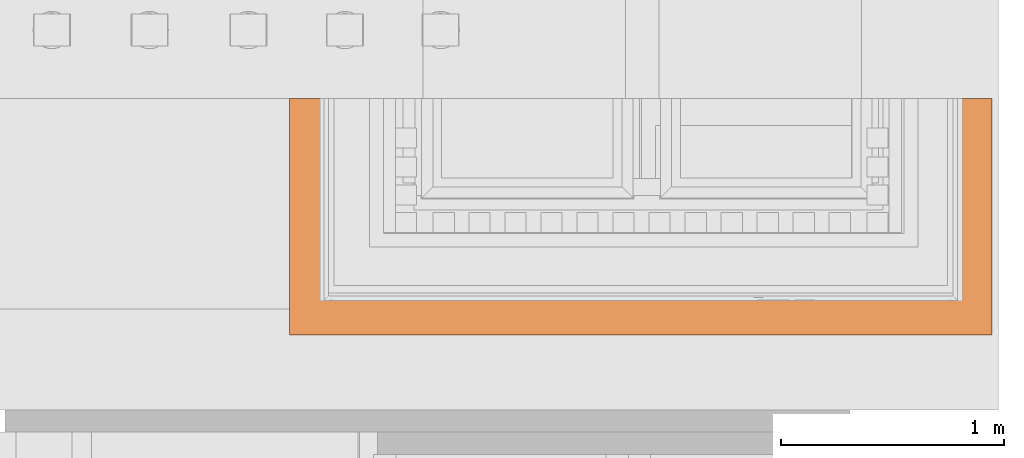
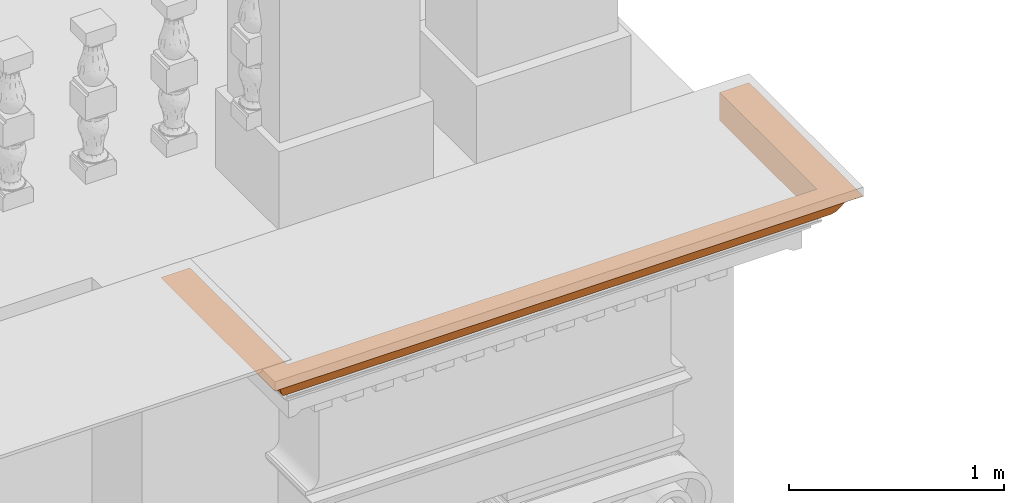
# One storey, part 39 of 44: 1 proxy.
"""IFC2X3 building model written with IfcOpenShell, lengths in metres."""

from ifc_helpers import new_model, entity, si_unit, converted_unit, derived_unit, direction, frame, origin, place, context, subcontext, project, spatial, faceted_brep, material, element, save


model = new_model("IFC2X3")

# Units and contexts
model_context = context("Model", 3, precision=1e-05, world=origin(), true_north=direction((6.12303176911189e-17, 1.0)))
body_context = subcontext(model_context, "Body", "Model", "MODEL_VIEW")
ifc_project = project(units=[si_unit("LENGTHUNIT", "METRE"), si_unit("AREAUNIT", "SQUARE_METRE"), si_unit("VOLUMEUNIT", "CUBIC_METRE"), converted_unit("PLANEANGLEUNIT", "DEGREE", entity("IfcRatioMeasure", 0.0174532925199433), si_unit("PLANEANGLEUNIT", "RADIAN"), dimensions=[0, 0, 0, 0, 0, 0, 0]), si_unit("MASSUNIT", "GRAM", prefix="KILO"), derived_unit("MASSDENSITYUNIT", [(si_unit("MASSUNIT", "GRAM", prefix="KILO"), 1), (si_unit("LENGTHUNIT", "METRE"), -3)]), si_unit("TIMEUNIT", "SECOND"), si_unit("FREQUENCYUNIT", "HERTZ"), si_unit("THERMODYNAMICTEMPERATUREUNIT", "DEGREE_CELSIUS"), derived_unit("THERMALTRANSMITTANCEUNIT", [(si_unit("MASSUNIT", "GRAM", prefix="KILO"), 1), (si_unit("THERMODYNAMICTEMPERATUREUNIT", "KELVIN"), -1), (si_unit("TIMEUNIT", "SECOND"), -3)]), derived_unit("VOLUMETRICFLOWRATEUNIT", [(si_unit("LENGTHUNIT", "METRE"), 3), (si_unit("TIMEUNIT", "SECOND"), -1)]), si_unit("ELECTRICCURRENTUNIT", "AMPERE"), si_unit("ELECTRICVOLTAGEUNIT", "VOLT"), si_unit("POWERUNIT", "WATT"), si_unit("FORCEUNIT", "NEWTON", prefix="KILO"), si_unit("ILLUMINANCEUNIT", "LUX"), si_unit("LUMINOUSFLUXUNIT", "LUMEN"), si_unit("LUMINOUSINTENSITYUNIT", "CANDELA"), derived_unit("USERDEFINED", [(si_unit("MASSUNIT", "GRAM", prefix="KILO"), -1), (si_unit("LENGTHUNIT", "METRE"), -2), (si_unit("TIMEUNIT", "SECOND"), 3), (si_unit("LUMINOUSFLUXUNIT", "LUMEN"), 1)]), derived_unit("LINEARVELOCITYUNIT", [(si_unit("LENGTHUNIT", "METRE"), 1), (si_unit("TIMEUNIT", "SECOND"), -1)]), si_unit("PRESSUREUNIT", "PASCAL"), derived_unit("USERDEFINED", [(si_unit("LENGTHUNIT", "METRE"), -2), (si_unit("MASSUNIT", "GRAM", prefix="KILO"), 1), (si_unit("TIMEUNIT", "SECOND"), -2)])], contexts=[model_context])

# Site, building, storey
site_placement = place(None, origin())
site = spatial("IfcSite", under=ifc_project, at=site_placement, Name="Default", CompositionType="ELEMENT")
building_placement = place(site_placement, origin())
building = spatial("IfcBuilding", under=site, at=building_placement, CompositionType="ELEMENT")
storey_placement = place(building_placement, origin())
storey = spatial("IfcBuildingStorey", under=building, at=storey_placement, Name="Livello 1", CompositionType="ELEMENT", Elevation=0.0)

# Proxy
ifc_material = material(Name="Piperno")
proxy_placement = place(storey_placement, frame((8.83609631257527, 0.199923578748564, 23.116461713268)))
element("IfcBuildingElementProxy", 1, at=proxy_placement, inside=storey, material=ifc_material, Name="Stratigrafia", context=body_context, shape_type="Brep", body=[
    faceted_brep([(3.10878828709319, 1.06344915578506, 0.128281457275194), (3.09116497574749, 1.06344915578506, 0.104660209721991), (3.0791774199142, 1.06344915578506, 0.077737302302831), (3.06637888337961, 1.06344915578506, 0.0523672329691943), (3.04812803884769, 1.06344915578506, 0.030587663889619), (3.02538822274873, 1.06344915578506, 0.0135481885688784), (3.01265471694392, 1.06344915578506, 0.00687805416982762), (2.99928590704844, 1.06344915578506, 0.00159527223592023), (2.99928590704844, 1.06344915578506, 0.161197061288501), (3.1572452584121, 1.06344915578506, 0.161197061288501), (3.13118170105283, 1.06344915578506, 0.147440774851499), (0.159554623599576, 1.06344915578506, 0.161197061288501), (0.159554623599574, 1.06344915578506, 0.00159527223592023), (0.146185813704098, 1.06344915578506, 0.00687805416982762), (0.133452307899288, 1.06344915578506, 0.0135481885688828), (0.110712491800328, 1.06344915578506, 0.030587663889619), (0.0924616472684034, 1.06344915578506, 0.0523672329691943), (0.0796631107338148, 1.06344915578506, 0.0777373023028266), (0.0676755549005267, 1.06344915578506, 0.104660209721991), (0.050052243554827, 1.06344915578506, 0.128281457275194), (0.0276588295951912, 1.06344915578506, 0.147440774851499), (0.0015952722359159, 1.06344915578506, 0.161197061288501), (2.99928590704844, 0.961867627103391, 0.00159527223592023), (2.99928590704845, 0.860286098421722, 0.00159527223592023), (2.99928590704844, 0.735894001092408, 0.00159527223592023), (2.99928590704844, 0.611501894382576, 0.0015952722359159), (2.99928590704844, 0.498515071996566, 0.00159527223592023), (2.99928590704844, 0.385528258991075, 0.0015952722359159), (2.99928590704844, 0.261136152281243, 0.0015952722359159), (2.99928590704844, 0.159554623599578, 0.00159527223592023), (2.99928590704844, 0.159554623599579, 0.161197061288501), (0.00159527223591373, 0.404239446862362, 0.161197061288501), (0.0015952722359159, 0.00159527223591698, 0.161197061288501), (0.806883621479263, 0.00159527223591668, 0.161197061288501), (1.54666855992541, 0.00159527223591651, 0.161197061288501), (2.35195690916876, 0.00159527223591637, 0.161197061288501), (3.1572452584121, 0.00159527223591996, 0.161197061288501), (3.1572452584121, 0.40423944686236, 0.161197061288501), (0.159554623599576, 0.159554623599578, 0.161197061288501), (3.11945257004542, 0.556750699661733, 0.13848341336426), (3.13118170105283, 0.0276588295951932, 0.147440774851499), (3.10878828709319, 0.0500522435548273, 0.128281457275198), (3.09847260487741, 0.56556235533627, 0.11581167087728), (3.09116497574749, 0.0676755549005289, 0.104660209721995), (3.0791774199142, 0.660804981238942, 0.0777373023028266), (3.0791774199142, 0.0796631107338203, 0.077737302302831), (3.0791774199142, 0.467984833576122, 0.077737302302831), (3.0791774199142, 0.675127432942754, 0.077737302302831), (3.05788100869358, 0.587080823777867, 0.0409515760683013), (3.04812803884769, 0.11071249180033, 0.030587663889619), (3.02538822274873, 0.32761316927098, 0.0135481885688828), (3.06637888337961, 0.0924616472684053, 0.0523672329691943), (3.02538822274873, 0.675127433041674, 0.0135481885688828), (3.02538822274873, 0.801613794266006, 0.0135481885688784), (3.02538822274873, 0.961867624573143, 0.0135481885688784), (3.02538822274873, 0.133452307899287, 0.0135481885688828), (3.02538822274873, 0.235033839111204, 0.0135481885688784), (3.02538822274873, 0.33661537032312, 0.0135481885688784), (3.02538822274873, 0.438196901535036, 0.0135481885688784), (3.02538822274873, 0.539778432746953, 0.0135481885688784), (3.02538822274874, 0.670696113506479, 0.0135481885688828), (3.01265471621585, 0.911076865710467, 0.00687805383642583), (3.01265471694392, 0.1461858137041, 0.00687805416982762), (3.01326905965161, 0.285824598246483, 0.00716123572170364), (3.01376195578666, 0.397403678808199, 0.0073911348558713), (3.01152963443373, 0.800300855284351, 0.00636904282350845), (3.01179903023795, 0.664215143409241, 0.00648979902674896), (3.01172922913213, 0.555008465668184, 0.00645844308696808), (2.82180273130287, 0.159554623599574, 0.00159527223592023), (2.64431949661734, 0.159554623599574, 0.00159527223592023), (2.4668362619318, 0.159554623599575, 0.00159527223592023), (2.28935308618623, 0.159554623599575, 0.0015952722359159), (2.11186991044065, 0.159554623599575, 0.0015952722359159), (1.93438667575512, 0.159554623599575, 0.00159527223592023), (1.84564508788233, 0.159554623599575, 0.00159527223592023), (1.75690344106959, 0.159554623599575, 0.0015952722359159), (1.57942026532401, 0.159554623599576, 0.0015952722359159), (1.40193708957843, 0.159554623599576, 0.0015952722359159), (1.2244538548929, 0.159554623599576, 0.0015952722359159), (1.04697062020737, 0.159554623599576, 0.0015952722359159), (0.86948744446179, 0.159554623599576, 0.0015952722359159), (0.692004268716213, 0.159554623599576, 0.0015952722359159), (0.514521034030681, 0.159554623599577, 0.0015952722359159), (0.337037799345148, 0.159554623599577, 0.0015952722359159), (0.159554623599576, 0.159554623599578, 0.00159527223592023), (2.54398234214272, 0.0383379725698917, 0.139372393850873), (2.67842556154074, 0.0590445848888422, 0.117594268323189), (0.0276588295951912, 0.0276588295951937, 0.147440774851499), (1.06047702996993, 0.058383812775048, 0.118461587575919), (0.884951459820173, 0.0796631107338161, 0.077737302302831), (1.62044143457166, 0.0655563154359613, 0.108153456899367), (0.646988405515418, 0.0382791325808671, 0.139421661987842), (0.050052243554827, 0.050052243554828, 0.128281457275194), (1.83491819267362, 0.0336046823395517, 0.143157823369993), (1.24127117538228, 0.0361180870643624, 0.141191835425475), (2.18151101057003, 0.0584789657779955, 0.118337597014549), (2.38470861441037, 0.0796631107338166, 0.0777373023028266), (2.690848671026, 0.0796631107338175, 0.0777373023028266), (0.0676755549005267, 0.0676755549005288, 0.104660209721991), (0.079663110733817, 0.0796631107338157, 0.077737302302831), (0.467982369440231, 0.0796631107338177, 0.077737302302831), (0.856301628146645, 0.0796631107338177, 0.077737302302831), (0.525116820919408, 0.0589939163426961, 0.117661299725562), (1.21785857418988, 0.0796631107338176, 0.077737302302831), (1.57941552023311, 0.0796631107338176, 0.077737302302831), (1.69023980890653, 0.0796631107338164, 0.0777373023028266), (1.94097246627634, 0.0796631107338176, 0.0777373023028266), (2.30252941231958, 0.0796631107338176, 0.0777373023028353), (1.57226839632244, 0.0496536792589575, 0.128705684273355), (0.406256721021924, 0.109794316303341, 0.0314661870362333), (0.133452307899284, 0.133452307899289, 0.0135481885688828), (0.235033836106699, 0.133452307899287, 0.0135481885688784), (0.336615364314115, 0.133452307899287, 0.0135481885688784), (0.438196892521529, 0.133452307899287, 0.0135481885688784), (0.521765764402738, 0.133452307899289, 0.0135481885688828), (1.94097711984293, 0.0971343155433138, 0.0457536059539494), (2.23233215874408, 0.0991875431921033, 0.0431153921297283), (2.44290563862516, 0.116842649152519, 0.0251557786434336), (2.24873751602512, 0.133452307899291, 0.0135481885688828), (2.31431752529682, 0.133452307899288, 0.0135481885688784), (2.41589905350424, 0.133452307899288, 0.0135481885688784), (2.51748058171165, 0.133452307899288, 0.0135481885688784), (2.61906210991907, 0.133452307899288, 0.0135481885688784), (2.63706286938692, 0.133452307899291, 0.0135481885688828), (0.679859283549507, 0.116417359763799, 0.0255097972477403), (0.632215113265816, 0.0996134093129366, 0.0425861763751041), (0.0924616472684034, 0.0924616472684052, 0.0523672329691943), (2.52662541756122, 0.0996134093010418, 0.0425861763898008), (2.74934620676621, 0.115059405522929, 0.0266620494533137), (2.10165541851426, 0.113498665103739, 0.0280287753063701), (0.110712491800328, 0.11071249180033, 0.030587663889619), (1.62359484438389, 0.0973013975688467, 0.045533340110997), (1.32404226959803, 0.102530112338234, 0.0391140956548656), (1.38462186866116, 0.0884912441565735, 0.0588181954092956), (1.03708498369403, 0.0911158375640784, 0.0544562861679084), (0.965816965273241, 0.109740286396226, 0.0315184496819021), (1.7629589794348, 0.112471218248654, 0.0289541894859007), (0.910091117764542, 0.133452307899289, 0.0135481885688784), (1.96773372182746, 0.13345230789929, 0.0135481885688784), (1.29841647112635, 0.13345230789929, 0.0135481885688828), (2.72064363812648, 0.133452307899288, 0.0135481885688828), (2.8222251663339, 0.133452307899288, 0.0135481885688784), (2.92380669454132, 0.133452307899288, 0.0135481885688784), (1.40008377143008, 0.133452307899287, 0.0135481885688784), (1.5016652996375, 0.133452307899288, 0.0135481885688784), (1.60324682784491, 0.133452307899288, 0.0135481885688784), (1.6867299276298, 0.13345230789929, 0.0135481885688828), (1.70482835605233, 0.133452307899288, 0.0135481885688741), (1.80640988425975, 0.133452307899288, 0.0135481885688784), (1.90799141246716, 0.133452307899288, 0.0135481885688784), (2.00957294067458, 0.133452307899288, 0.0135481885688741), (2.11115446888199, 0.133452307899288, 0.0135481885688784), (2.21273599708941, 0.133452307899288, 0.0135481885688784), (0.539778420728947, 0.133452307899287, 0.0135481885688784), (0.641359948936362, 0.133452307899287, 0.0135481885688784), (0.742941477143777, 0.133452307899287, 0.0135481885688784), (0.844523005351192, 0.133452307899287, 0.0135481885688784), (0.946104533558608, 0.133452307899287, 0.0135481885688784), (1.05959934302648, 0.133452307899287, 0.0135481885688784), (1.17309415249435, 0.133452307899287, 0.0135481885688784), (1.28658896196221, 0.133452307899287, 0.0135481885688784), (0.517536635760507, 0.1460342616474, 0.00694756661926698), (0.413981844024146, 0.146165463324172, 0.00688737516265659), (1.3328869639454, 0.147006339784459, 0.00650561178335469), (0.812679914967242, 0.145675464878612, 0.00711303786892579), (0.692150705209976, 0.145381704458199, 0.00724946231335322), (1.80127424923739, 0.146792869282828, 0.00660187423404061), (1.67301016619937, 0.146864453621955, 0.00656954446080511), (0.285824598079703, 0.146199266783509, 0.00687189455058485), (2.87301593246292, 0.146199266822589, 0.00687189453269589), (0.146185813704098, 0.1461858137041, 0.00687805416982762), (1.11634673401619, 0.146683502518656, 0.00665136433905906), (2.74485868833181, 0.146165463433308, 0.00688737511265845), (2.64130389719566, 0.146034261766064, 0.00694756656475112), (2.23616118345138, 0.146898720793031, 0.0065540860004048), (1.01936295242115, 0.144585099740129, 0.00762372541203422), (1.22468053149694, 0.145356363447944, 0.00726127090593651), (2.06036368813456, 0.1462086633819, 0.00686759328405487), (2.46668982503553, 0.145381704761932, 0.0072494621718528), (2.34616061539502, 0.145675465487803, 0.00711303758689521), (1.94895624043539, 0.145107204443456, 0.00737771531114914), (1.56755259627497, 0.145832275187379, 0.00704056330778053), (1.45087451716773, 0.146128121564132, 0.00690448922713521), (0.922679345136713, 0.146898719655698, 0.00655408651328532), (0.159554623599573, 0.261136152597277, 0.00159527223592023), (0.159554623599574, 0.385528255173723, 0.00159527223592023), (0.159554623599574, 0.498515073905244, 0.00159527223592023), (0.159554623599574, 0.611501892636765, 0.0015952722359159), (0.159554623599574, 0.735893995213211, 0.0015952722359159), (0.159554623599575, 0.860286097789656, 0.0015952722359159), (0.159554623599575, 0.961867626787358, 0.0015952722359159), (0.0393879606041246, 0.55675069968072, 0.138483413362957), (0.0603679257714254, 0.565562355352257, 0.115811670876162), (0.079663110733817, 0.675127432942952, 0.077737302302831), (0.0796631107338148, 0.660804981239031, 0.077737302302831), (0.079663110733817, 0.467984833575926, 0.077737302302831), (0.0997497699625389, 0.577955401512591, 0.042417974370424), (0.116592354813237, 0.501370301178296, 0.0253637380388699), (0.133452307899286, 0.675127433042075, 0.0135481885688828), (0.133452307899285, 0.670696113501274, 0.0135481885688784), (0.133452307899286, 0.539778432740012, 0.0135481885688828), (0.133452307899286, 0.43819690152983, 0.0135481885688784), (0.133452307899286, 0.336615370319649, 0.0135481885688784), (0.133452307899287, 0.327613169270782, 0.0135481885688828), (0.111100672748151, 0.77476859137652, 0.0302216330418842), (0.133452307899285, 0.961867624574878, 0.0135481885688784), (0.133452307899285, 0.801613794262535, 0.0135481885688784), (0.133452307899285, 0.235033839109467, 0.0135481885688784), (0.14711130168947, 0.555008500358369, 0.00645844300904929), (0.147041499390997, 0.664215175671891, 0.00648979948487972), (0.146185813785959, 0.911076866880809, 0.00687805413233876), (0.145078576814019, 0.397403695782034, 0.00739113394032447), (0.145571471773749, 0.285824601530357, 0.00716123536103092), (0.147310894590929, 0.800300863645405, 0.00636904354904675)], [[[0, 1, 2, 3, 4, 5, 6, 7, 8, 9, 10]], [[11, 12, 13, 14, 15, 16, 17, 18, 19, 20, 21]], [[8, 7, 22, 23, 24, 25, 26, 27, 28, 29, 30]], [[11, 21, 31, 32, 33, 34, 35, 36, 37, 9, 8, 30, 38]], [[39, 37, 40]], [[10, 9, 37]], [[37, 36, 40]], [[0, 10, 39]], [[41, 39, 40]], [[42, 43, 44]], [[0, 42, 1]], [[43, 45, 46, 44]], [[1, 44, 47, 2]], [[39, 10, 37]], [[39, 41, 42]], [[1, 42, 44]], [[39, 42, 0]], [[42, 41, 43]], [[48, 47, 44, 46]], [[49, 50, 48]], [[48, 51, 49]], [[4, 52, 53, 54, 5]], [[49, 55, 56, 50]], [[51, 48, 46]], [[52, 4, 48]], [[4, 3, 48]], [[48, 50, 57, 58, 59, 60, 52]], [[3, 2, 47]], [[46, 45, 51]], [[3, 47, 48]], [[61, 6, 54]], [[62, 63, 56]], [[63, 62, 28]], [[27, 64, 63]], [[61, 53, 65]], [[60, 66, 65]], [[67, 66, 60]], [[59, 58, 67, 60]], [[64, 57, 63]], [[6, 61, 22]], [[67, 64, 26]], [[6, 5, 54]], [[56, 55, 62]], [[62, 29, 28]], [[22, 7, 6]], [[22, 61, 23]], [[61, 65, 23]], [[53, 61, 54]], [[63, 57, 50, 56]], [[27, 63, 28]], [[26, 25, 67]], [[67, 58, 64]], [[64, 27, 26]], [[67, 25, 66]], [[25, 24, 66]], [[66, 24, 65]], [[65, 53, 52, 60]], [[24, 23, 65]], [[58, 57, 64]], [[30, 29, 68, 69, 70, 71, 72, 73, 74, 75, 76, 77, 78, 79, 80, 81, 82, 83, 84, 38]], [[85, 86, 41]], [[35, 40, 36]], [[33, 32, 87]], [[88, 89, 90]], [[91, 87, 92]], [[93, 34, 94]], [[86, 95, 96]], [[85, 35, 93]], [[93, 35, 34]], [[43, 96, 97, 45]], [[98, 99, 100, 101, 89]], [[41, 40, 85]], [[41, 86, 43]], [[91, 33, 87]], [[96, 95, 90]], [[102, 98, 89]], [[98, 102, 92]], [[91, 102, 88]], [[34, 33, 94]], [[93, 95, 85]], [[90, 89, 103, 104, 105, 106, 107, 96]], [[85, 40, 35]], [[90, 95, 108]], [[88, 94, 91]], [[92, 102, 91]], [[88, 102, 89]], [[43, 86, 96]], [[95, 86, 85]], [[33, 91, 94]], [[93, 94, 108]], [[108, 94, 88]], [[93, 108, 95]], [[90, 108, 88]], [[109, 110, 111, 112, 113, 114]], [[115, 116, 107]], [[117, 118, 119, 120, 121, 122, 123]], [[109, 124, 125]], [[125, 100, 126]], [[127, 117, 128]], [[51, 45, 97]], [[99, 126, 100]], [[117, 129, 118]], [[130, 109, 126]], [[128, 51, 127]], [[131, 106, 105, 104]], [[51, 97, 127]], [[132, 133, 134]], [[125, 101, 100]], [[127, 97, 96, 107]], [[124, 109, 114]], [[132, 134, 135]], [[136, 131, 132]], [[49, 128, 55]], [[124, 137, 135]], [[136, 138, 129]], [[133, 104, 103]], [[132, 139, 136]], [[128, 117, 123]], [[129, 116, 115]], [[116, 117, 127]], [[129, 115, 136]], [[131, 136, 115]], [[135, 139, 132]], [[128, 123, 140, 141, 142, 55]], [[128, 49, 51]], [[131, 115, 106]], [[131, 133, 132]], [[101, 125, 134]], [[134, 103, 89, 101]], [[134, 125, 135]], [[124, 135, 125]], [[104, 133, 131]], [[134, 133, 103]], [[117, 116, 129]], [[107, 116, 127]], [[136, 139, 143, 144, 145, 146, 147, 148, 149, 138]], [[129, 138, 150, 151, 152, 118]], [[124, 114, 153, 154, 155, 156, 137]], [[126, 109, 125]], [[109, 130, 110]], [[115, 107, 106]], [[135, 137, 157, 158, 159, 160, 139]], [[161, 113, 162]], [[163, 143, 139, 160]], [[81, 164, 165]], [[166, 167, 75]], [[84, 83, 168]], [[29, 169, 68]], [[111, 170, 168]], [[79, 78, 171]], [[69, 172, 173]], [[152, 151, 174, 119, 118]], [[69, 173, 70]], [[81, 161, 82]], [[175, 79, 171]], [[161, 154, 153, 114, 113]], [[173, 140, 123, 122, 121]], [[176, 160, 159]], [[72, 174, 177]], [[172, 68, 169]], [[70, 178, 179]], [[168, 112, 111]], [[142, 141, 169]], [[168, 83, 162]], [[169, 141, 172]], [[112, 168, 162]], [[169, 29, 62]], [[111, 110, 170]], [[62, 55, 142]], [[84, 168, 170]], [[83, 82, 162]], [[69, 68, 172]], [[161, 162, 82]], [[62, 142, 169]], [[172, 141, 140]], [[113, 112, 162]], [[164, 155, 165]], [[165, 161, 81]], [[178, 121, 120]], [[155, 154, 165]], [[71, 70, 179]], [[157, 175, 158]], [[177, 180, 73]], [[71, 179, 174]], [[167, 181, 76]], [[182, 163, 77]], [[149, 166, 180]], [[144, 182, 181]], [[144, 143, 182]], [[76, 182, 77]], [[159, 171, 176]], [[163, 182, 143]], [[78, 77, 163]], [[161, 165, 154]], [[140, 173, 172]], [[164, 81, 80]], [[183, 164, 80]], [[183, 156, 164]], [[80, 79, 183]], [[158, 175, 171]], [[158, 171, 159]], [[183, 175, 157]], [[176, 171, 78]], [[78, 163, 176]], [[160, 176, 163]], [[183, 157, 137, 156]], [[156, 155, 164]], [[79, 175, 183]], [[121, 178, 173]], [[178, 120, 179]], [[173, 178, 70]], [[119, 174, 179]], [[150, 177, 151]], [[72, 71, 174]], [[151, 177, 174]], [[180, 177, 150]], [[73, 72, 177]], [[166, 149, 148, 147]], [[180, 74, 73]], [[180, 166, 74]], [[75, 74, 166]], [[166, 147, 167]], [[181, 167, 145]], [[76, 75, 167]], [[180, 150, 138, 149]], [[179, 120, 119]], [[144, 181, 145]], [[182, 76, 181]], [[167, 147, 146, 145]], [[38, 84, 184, 185, 186, 187, 188, 189, 190, 12, 11]], [[191, 87, 31]], [[87, 32, 31]], [[21, 20, 31]], [[31, 20, 191]], [[191, 20, 19]], [[192, 191, 19]], [[98, 92, 192]], [[18, 17, 193, 194]], [[98, 194, 195, 99]], [[87, 191, 92]], [[98, 192, 194]], [[192, 18, 194]], [[92, 191, 192]], [[18, 192, 19]], [[195, 196, 126]], [[197, 198, 199, 200, 201, 202, 203]], [[198, 197, 204]], [[196, 193, 16]], [[126, 99, 195]], [[193, 17, 16]], [[204, 197, 196]], [[197, 130, 196]], [[130, 197, 203]], [[204, 14, 205, 206, 198]], [[130, 126, 196]], [[204, 16, 15]], [[196, 195, 194, 193]], [[130, 203, 207, 110]], [[16, 204, 196]], [[204, 15, 14]], [[208, 209, 187]], [[189, 210, 13, 12, 190]], [[184, 84, 170]], [[208, 199, 209]], [[208, 201, 200, 199]], [[201, 208, 211]], [[212, 211, 185]], [[13, 210, 206, 205, 14]], [[170, 110, 207]], [[207, 212, 170]], [[212, 207, 203, 202]], [[184, 212, 185]], [[212, 202, 211]], [[170, 212, 184]], [[211, 208, 186]], [[186, 208, 187]], [[186, 185, 211]], [[210, 213, 206]], [[213, 209, 199]], [[210, 189, 213]], [[213, 199, 198, 206]], [[188, 187, 209]], [[189, 188, 213]], [[209, 213, 188]], [[211, 202, 201]]]),
])

save(model, "model.ifc")
